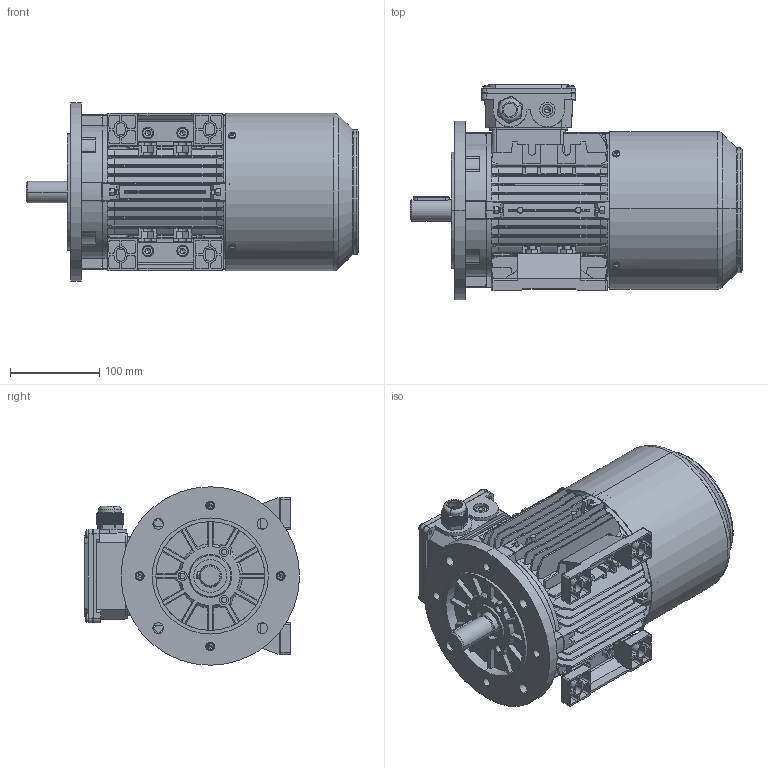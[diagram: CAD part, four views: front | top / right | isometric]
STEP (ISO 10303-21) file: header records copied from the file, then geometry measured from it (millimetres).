
FILE_DESCRIPTION (( 'STEP AP203' ), '1' );
FILE_NAME ('TB90S B35（风罩不带手柄孔）.STEP', '2021-10-22T06:49:36', ( '' ), ( '' ), 'SwSTEP 2.0', 'SolidWorks 2014', '' );
FILE_SCHEMA (( 'CONFIG_CONTROL_DESIGN' ));
Length unit declared in the file: millimetre
Products named in the file (19): Cross recessed thread forming screws GB_GB_CROSS_SCREWS_TYPE138 M5X12-N; Hexagon nuts grade C GB_GB_FASTENER_NUT_SNC1 M8-N; 陔諉盄碟釱80-100; TB90S蛌粣; Hexagon nuts grade C GB_GB_FASTENER_NUT_SNC1 M5-N; TB90S B35（风罩不带手柄孔）; 80-100堤盄蹟杶; TA90B5楊擘1; T90S儂褲; Hexagon socket head cap screws GB_GB_FASTENER_SCREWS_HSHCS M8X25-N; 90怢宒瑞珔; TB90瑞欶ㄗ祥湍忒梟謂ㄘ; Hexagon socket head cap screws GB_GB_FASTENER_SCREWS_HSHCS M5X25-N; Cross recessed thread forming screws GB_GB_CROSS_SCREWS_TYPE138 M4X12-N; 陔諉盄碟裔80-100; T90S菁褐; Plain parallel keys_GB_CONNECTING_PIECE_KEYS_CSK 8X40; 90-4怢宒瑞珔傍杶; TB90綴裔
Assembly tree (46 placements, depth 2):
  TB90S B35（风罩不带手柄孔）
    T90S儂褲
    T90S菁褐  x2
    TB90S蛌粣
    TB90瑞欶ㄗ祥湍忒梟謂ㄘ
    TB90綴裔
    80-100堤盄蹟杶
    Cross recessed thread forming screws GB_GB_CROSS_SCREWS_TYPE138 M4X12-N  x4
    Hexagon nuts grade C GB_GB_FASTENER_NUT_SNC1 M8-N  x4
    Hexagon socket head cap screws GB_GB_FASTENER_SCREWS_HSHCS M8X25-N  x4
    Plain parallel keys_GB_CONNECTING_PIECE_KEYS_CSK 8X40
    Hexagon nuts grade C GB_GB_FASTENER_NUT_SNC1 M5-N  x8
    Hexagon socket head cap screws GB_GB_FASTENER_SCREWS_HSHCS M5X25-N  x8
    Cross recessed thread forming screws GB_GB_CROSS_SCREWS_TYPE138 M5X12-N  x4
    TA90B5楊擘1
    陔諉盄碟裔80-100
    陔諉盄碟釱80-100
    90怢宒瑞珔
    90-4怢宒瑞珔傍杶  x2
Bounding box: 372 x 241 x 200 mm (x, y, z)
Volume: 1513161.6 mm3; surface area: 949293.6 mm2
Topology: 46 solids, 46 shells, 4163 faces, 11216 edges, 7241 vertices
Faces by surface type: plane 2540, cylinder 1143, cone 255, torus 191, sphere 34
Entity records: 117237 total; most frequent: CARTESIAN_POINT 27174, ORIENTED_EDGE 18970, DIRECTION 17356, EDGE_CURVE 9485, VERTEX_POINT 6167, LINE 5944, VECTOR 5944, AXIS2_PLACEMENT_3D 5706
